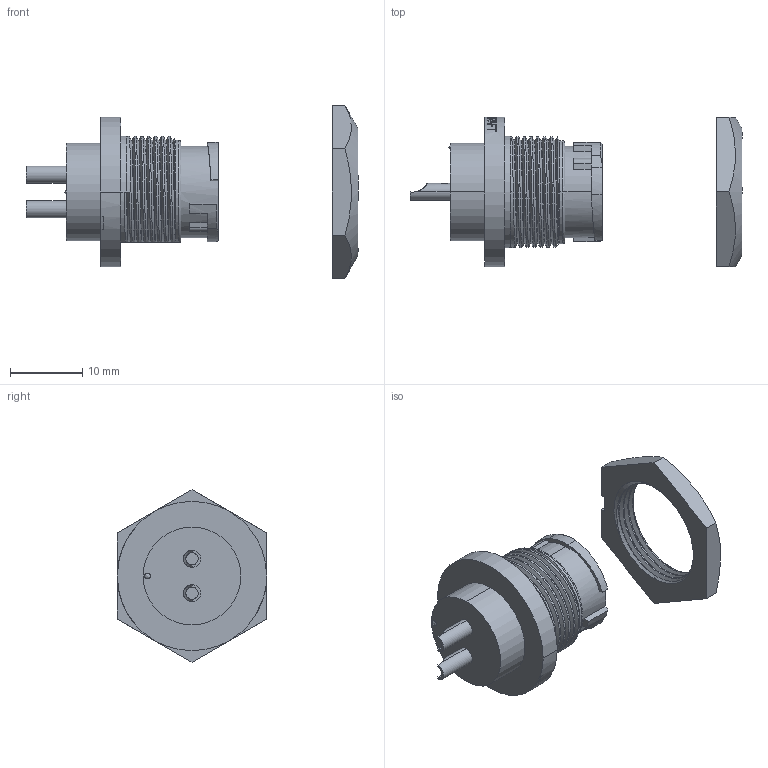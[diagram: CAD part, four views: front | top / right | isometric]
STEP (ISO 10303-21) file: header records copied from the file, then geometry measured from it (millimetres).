
FILE_DESCRIPTION (( 'STEP AP214' ), '1' );
FILE_NAME ('EN3P2F16X.STEP', '2014-07-01T15:41:51', ( '' ), ( '' ), 'SwSTEP 2.0', 'SolidWorks 2014', '' );
FILE_SCHEMA (( 'AUTOMOTIVE_DESIGN' ));
Length unit declared in the file: inch
Products named in the file (1): EN3P2F16X
Bounding box: 45.87 x 20.64 x 23.83 mm (x, y, z)
Volume: 3930.6 mm3; surface area: 3382.6 mm2
Topology: 2 solids, 2 shells, 409 faces, 1113 edges, 718 vertices
Faces by surface type: bspline 161, plane 122, cylinder 99, cone 27
Entity records: 36289 total; most frequent: CARTESIAN_POINT 21979, ORIENTED_EDGE 2200, DIRECTION 1405, EDGE_CURVE 1100, VERTEX_POINT 718, AXIS2_PLACEMENT_3D 495, EDGE_LOOP 438, VECTOR 415
